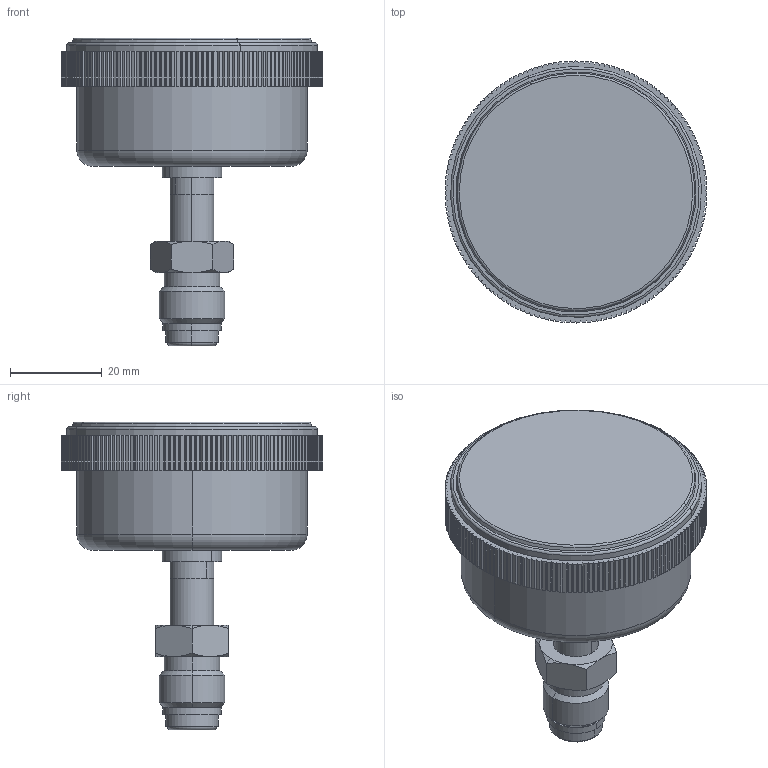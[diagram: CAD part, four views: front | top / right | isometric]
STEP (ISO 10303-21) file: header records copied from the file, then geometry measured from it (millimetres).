
FILE_DESCRIPTION (( 'STEP AP203' ), '1' );
FILE_NAME ('C20-SM.STEP', '2025-03-04T19:23:39', ( '' ), ( '' ), 'SwSTEP 2.0', 'SolidWorks 2023', '' );
FILE_SCHEMA (( 'CONFIG_CONTROL_DESIGN' ));
Length unit declared in the file: millimetre
Products named in the file (1): C20-SM
Bounding box: 57.2 x 57.2 x 67.2 mm (x, y, z)
Volume: 19473.6 mm3; surface area: 26465.5 mm2
Topology: 5 solids, 5 shells, 621 faces, 1713 edges, 1112 vertices
Faces by surface type: plane 340, cylinder 205, cone 44, torus 30, bspline 2
Entity records: 19855 total; most frequent: CARTESIAN_POINT 3569, DIRECTION 3432, ORIENTED_EDGE 3426, EDGE_CURVE 1713, VECTOR 1182, LINE 1182, AXIS2_PLACEMENT_3D 1125, VERTEX_POINT 1112
